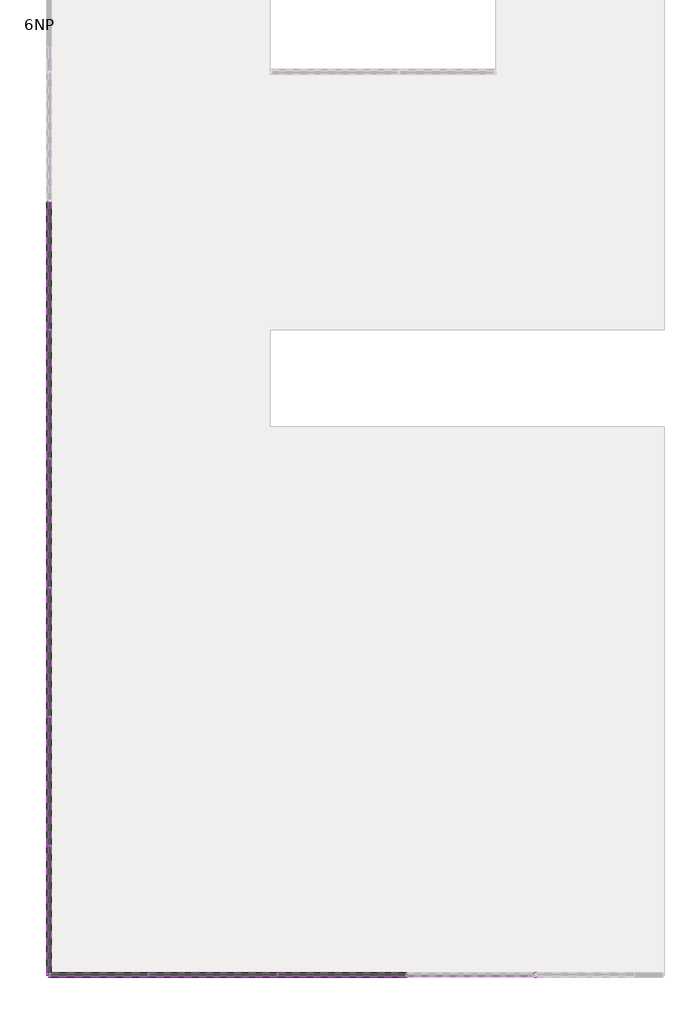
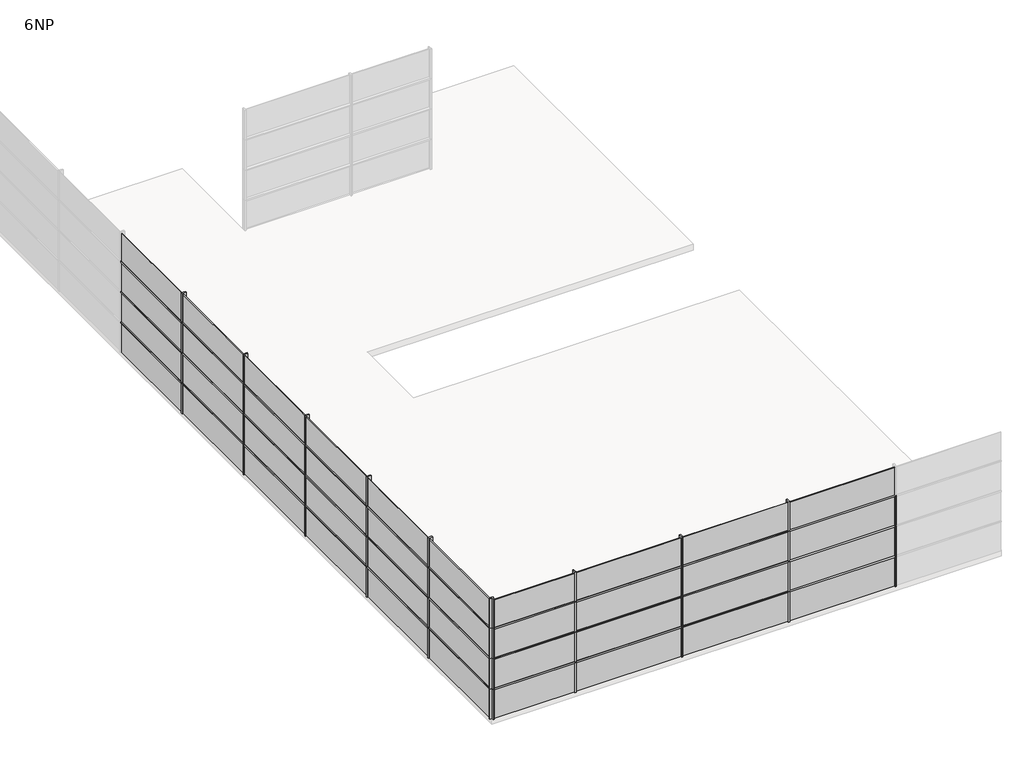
# One storey, part 1 of 3: 70 members, 40 plates.
"""IFC4 building model written with IfcOpenShell, lengths in millimetres."""

from ifc_helpers import new_model, si_unit, origin, place, context, project, spatial, transform, mapped, element, save
from components import rectangular_mullion_50_x_150mm_d99dc9be, rectangular_mullion_50_x_150mm_6588f46c, rectangular_mullion_50_x_150mm_a037c29c, rectangular_mullion_50_x_150mm_c2546fd4, rectangular_mullion_50_x_150mm_568dda71, rectangular_mullion_50_x_150mm_268a5786, rectangular_mullion_50_x_150mm_cd873b1a, system_panel_glazed_8e9402eb, system_panel_glazed_89ac83a7, system_panel_glazed_cf4d7c03, system_panel_glazed_7b3729bb, system_panel_glazed_2dc425e2, system_panel_glazed_f5baf7a3

model = new_model("IFC4")

# Units and contexts
model_context = context("Model", 3, world=origin())
ifc_project = project(units=[si_unit("LENGTHUNIT", "METRE", prefix="MILLI")], contexts=[model_context])

# Site, building, storey
site = spatial("IfcSite", under=ifc_project)
building = spatial("IfcBuilding", under=site)
storey = spatial("IfcBuildingStorey", under=building, Name="6NP", Elevation=24000.0)

# Members
placement = place(None, origin())
rectangular_mullion_50_x_150mm_shape = rectangular_mullion_50_x_150mm_d99dc9be(model_context)
element("IfcMember", 1, ObjectType="Rectangular Mullion : 50 x 150mm", at=placement, inside=storey, context=model_context, shape_type="MappedRepresentation", body=[
    mapped(rectangular_mullion_50_x_150mm_shape, transform((9503.2660975, -23624.0160434, 25200.0), x_axis=(-1.0, 0.0, 0.0), y_axis=(0.0, -1.0, 0.0), z_axis=(0.0, 0.0, 1.0))),
])
element("IfcMember", 2, ObjectType="Rectangular Mullion : 50 x 150mm", at=placement, inside=storey, context=model_context, shape_type="MappedRepresentation", body=[
    mapped(rectangular_mullion_50_x_150mm_shape, transform((9503.2660975, -23624.0160434, 26400.0), x_axis=(-1.0, 0.0, 0.0), y_axis=(0.0, -1.0, 0.0), z_axis=(0.0, 0.0, 1.0))),
])
element("IfcMember", 3, ObjectType="Rectangular Mullion : 50 x 150mm", at=placement, inside=storey, context=model_context, shape_type="MappedRepresentation", body=[
    mapped(rectangular_mullion_50_x_150mm_shape, transform((9503.2660975, -23624.0160434, 27600.0), x_axis=(-1.0, 0.0, 0.0), y_axis=(0.0, -1.0, 0.0), z_axis=(0.0, 0.0, 1.0))),
])
element("IfcMember", 4, ObjectType="Rectangular Mullion : 50 x 150mm", at=placement, inside=storey, context=model_context, shape_type="MappedRepresentation", body=[
    mapped(rectangular_mullion_50_x_150mm_shape, transform((5503.2660975, -23624.0160434, 25200.0), x_axis=(-1.0, 0.0, 0.0), y_axis=(0.0, -1.0, 0.0), z_axis=(0.0, 0.0, 1.0))),
])
element("IfcMember", 5, ObjectType="Rectangular Mullion : 50 x 150mm", at=placement, inside=storey, context=model_context, shape_type="MappedRepresentation", body=[
    mapped(rectangular_mullion_50_x_150mm_shape, transform((5503.2660975, -23624.0160434, 26400.0), x_axis=(-1.0, 0.0, 0.0), y_axis=(0.0, -1.0, 0.0), z_axis=(0.0, 0.0, 1.0))),
])
element("IfcMember", 6, ObjectType="Rectangular Mullion : 50 x 150mm", at=placement, inside=storey, context=model_context, shape_type="MappedRepresentation", body=[
    mapped(rectangular_mullion_50_x_150mm_shape, transform((5503.2660975, -23624.0160434, 27600.0), x_axis=(-1.0, 0.0, 0.0), y_axis=(0.0, -1.0, 0.0), z_axis=(0.0, 0.0, 1.0))),
])
element("IfcMember", 7, ObjectType="Rectangular Mullion : 50 x 150mm", at=placement, inside=storey, context=model_context, shape_type="MappedRepresentation", body=[
    mapped(rectangular_mullion_50_x_150mm_shape, transform((1503.2660975, -23624.0160434, 25200.0), x_axis=(-1.0, 0.0, 0.0), y_axis=(0.0, -1.0, 0.0), z_axis=(0.0, 0.0, 1.0))),
])
element("IfcMember", 8, ObjectType="Rectangular Mullion : 50 x 150mm", at=placement, inside=storey, context=model_context, shape_type="MappedRepresentation", body=[
    mapped(rectangular_mullion_50_x_150mm_shape, transform((1503.2660975, -23624.0160434, 26400.0), x_axis=(-1.0, 0.0, 0.0), y_axis=(0.0, -1.0, 0.0), z_axis=(0.0, 0.0, 1.0))),
])
element("IfcMember", 9, ObjectType="Rectangular Mullion : 50 x 150mm", at=placement, inside=storey, context=model_context, shape_type="MappedRepresentation", body=[
    mapped(rectangular_mullion_50_x_150mm_shape, transform((1503.2660975, -23624.0160434, 27600.0), x_axis=(-1.0, 0.0, 0.0), y_axis=(0.0, -1.0, 0.0), z_axis=(0.0, 0.0, 1.0))),
])
element("IfcMember", 10, ObjectType="Rectangular Mullion : 50 x 150mm", at=placement, inside=storey, context=model_context, shape_type="MappedRepresentation", body=[
    mapped(rectangular_mullion_50_x_150mm_shape, transform((-2496.7339025, -23624.0160434, 25200.0), x_axis=(-1.0, 0.0, 0.0), y_axis=(0.0, -1.0, 0.0), z_axis=(0.0, 0.0, 1.0))),
])
element("IfcMember", 11, ObjectType="Rectangular Mullion : 50 x 150mm", at=placement, inside=storey, context=model_context, shape_type="MappedRepresentation", body=[
    mapped(rectangular_mullion_50_x_150mm_shape, transform((-2496.7339025, -23624.0160434, 26400.0), x_axis=(-1.0, 0.0, 0.0), y_axis=(0.0, -1.0, 0.0), z_axis=(0.0, 0.0, 1.0))),
])
element("IfcMember", 12, ObjectType="Rectangular Mullion : 50 x 150mm", at=placement, inside=storey, context=model_context, shape_type="MappedRepresentation", body=[
    mapped(rectangular_mullion_50_x_150mm_shape, transform((-2496.7339025, -23624.0160434, 27600.0), x_axis=(-1.0, 0.0, 0.0), y_axis=(0.0, -1.0, 0.0), z_axis=(0.0, 0.0, 1.0))),
])
element("IfcMember", 13, ObjectType="Rectangular Mullion : 50 x 150mm", at=placement, inside=storey, context=model_context, shape_type="MappedRepresentation", body=[
    mapped(rectangular_mullion_50_x_150mm_shape, transform((-5587.173406, -19624.0160434, 25200.0), x_axis=(0.0, 1.0, 0.0), y_axis=(-1.0, 0.0, 0.0), z_axis=(0.0, 0.0, 1.0))),
])
element("IfcMember", 14, ObjectType="Rectangular Mullion : 50 x 150mm", at=placement, inside=storey, context=model_context, shape_type="MappedRepresentation", body=[
    mapped(rectangular_mullion_50_x_150mm_shape, transform((-5587.173406, -19624.0160434, 26400.0), x_axis=(0.0, 1.0, 0.0), y_axis=(-1.0, 0.0, 0.0), z_axis=(0.0, 0.0, 1.0))),
])
element("IfcMember", 15, ObjectType="Rectangular Mullion : 50 x 150mm", at=placement, inside=storey, context=model_context, shape_type="MappedRepresentation", body=[
    mapped(rectangular_mullion_50_x_150mm_shape, transform((-5587.173406, -19624.0160434, 27600.0), x_axis=(0.0, 1.0, 0.0), y_axis=(-1.0, 0.0, 0.0), z_axis=(0.0, 0.0, 1.0))),
])
element("IfcMember", 16, ObjectType="Rectangular Mullion : 50 x 150mm", at=placement, inside=storey, context=model_context, shape_type="MappedRepresentation", body=[
    mapped(rectangular_mullion_50_x_150mm_shape, transform((-5587.173406, -15624.0160434, 25200.0), x_axis=(0.0, 1.0, 0.0), y_axis=(-1.0, 0.0, 0.0), z_axis=(0.0, 0.0, 1.0))),
])
element("IfcMember", 17, ObjectType="Rectangular Mullion : 50 x 150mm", at=placement, inside=storey, context=model_context, shape_type="MappedRepresentation", body=[
    mapped(rectangular_mullion_50_x_150mm_shape, transform((-5587.173406, -15624.0160434, 26400.0), x_axis=(0.0, 1.0, 0.0), y_axis=(-1.0, 0.0, 0.0), z_axis=(0.0, 0.0, 1.0))),
])
element("IfcMember", 18, ObjectType="Rectangular Mullion : 50 x 150mm", at=placement, inside=storey, context=model_context, shape_type="MappedRepresentation", body=[
    mapped(rectangular_mullion_50_x_150mm_shape, transform((-5587.173406, -15624.0160434, 27600.0), x_axis=(0.0, 1.0, 0.0), y_axis=(-1.0, 0.0, 0.0), z_axis=(0.0, 0.0, 1.0))),
])
element("IfcMember", 19, ObjectType="Rectangular Mullion : 50 x 150mm", at=placement, inside=storey, context=model_context, shape_type="MappedRepresentation", body=[
    mapped(rectangular_mullion_50_x_150mm_shape, transform((-5587.173406, -11624.0160434, 25200.0), x_axis=(0.0, 1.0, 0.0), y_axis=(-1.0, 0.0, 0.0), z_axis=(0.0, 0.0, 1.0))),
])
element("IfcMember", 20, ObjectType="Rectangular Mullion : 50 x 150mm", at=placement, inside=storey, context=model_context, shape_type="MappedRepresentation", body=[
    mapped(rectangular_mullion_50_x_150mm_shape, transform((-5587.173406, -11624.0160434, 26400.0), x_axis=(0.0, 1.0, 0.0), y_axis=(-1.0, 0.0, 0.0), z_axis=(0.0, 0.0, 1.0))),
])
element("IfcMember", 21, ObjectType="Rectangular Mullion : 50 x 150mm", at=placement, inside=storey, context=model_context, shape_type="MappedRepresentation", body=[
    mapped(rectangular_mullion_50_x_150mm_shape, transform((-5587.173406, -11624.0160434, 27600.0), x_axis=(0.0, 1.0, 0.0), y_axis=(-1.0, 0.0, 0.0), z_axis=(0.0, 0.0, 1.0))),
])
element("IfcMember", 22, ObjectType="Rectangular Mullion : 50 x 150mm", at=placement, inside=storey, context=model_context, shape_type="MappedRepresentation", body=[
    mapped(rectangular_mullion_50_x_150mm_shape, transform((-5587.173406, -7624.0160434, 25200.0), x_axis=(0.0, 1.0, 0.0), y_axis=(-1.0, 0.0, 0.0), z_axis=(0.0, 0.0, 1.0))),
])
element("IfcMember", 23, ObjectType="Rectangular Mullion : 50 x 150mm", at=placement, inside=storey, context=model_context, shape_type="MappedRepresentation", body=[
    mapped(rectangular_mullion_50_x_150mm_shape, transform((-5587.173406, -7624.0160434, 26400.0), x_axis=(0.0, 1.0, 0.0), y_axis=(-1.0, 0.0, 0.0), z_axis=(0.0, 0.0, 1.0))),
])
element("IfcMember", 24, ObjectType="Rectangular Mullion : 50 x 150mm", at=placement, inside=storey, context=model_context, shape_type="MappedRepresentation", body=[
    mapped(rectangular_mullion_50_x_150mm_shape, transform((-5587.173406, -7624.0160434, 27600.0), x_axis=(0.0, 1.0, 0.0), y_axis=(-1.0, 0.0, 0.0), z_axis=(0.0, 0.0, 1.0))),
])
element("IfcMember", 25, ObjectType="Rectangular Mullion : 50 x 150mm", at=placement, inside=storey, context=model_context, shape_type="MappedRepresentation", body=[
    mapped(rectangular_mullion_50_x_150mm_shape, transform((-5587.173406, -3624.0160434, 25200.0), x_axis=(0.0, 1.0, 0.0), y_axis=(-1.0, 0.0, 0.0), z_axis=(0.0, 0.0, 1.0))),
])
element("IfcMember", 26, ObjectType="Rectangular Mullion : 50 x 150mm", at=placement, inside=storey, context=model_context, shape_type="MappedRepresentation", body=[
    mapped(rectangular_mullion_50_x_150mm_shape, transform((-5587.173406, -3624.0160434, 26400.0), x_axis=(0.0, 1.0, 0.0), y_axis=(-1.0, 0.0, 0.0), z_axis=(0.0, 0.0, 1.0))),
])
element("IfcMember", 27, ObjectType="Rectangular Mullion : 50 x 150mm", at=placement, inside=storey, context=model_context, shape_type="MappedRepresentation", body=[
    mapped(rectangular_mullion_50_x_150mm_shape, transform((-5587.173406, -3624.0160434, 27600.0), x_axis=(0.0, 1.0, 0.0), y_axis=(-1.0, 0.0, 0.0), z_axis=(0.0, 0.0, 1.0))),
])
rectangular_mullion_50_x_150mm_2_shape = rectangular_mullion_50_x_150mm_6588f46c(model_context)
element("IfcMember", 28, ObjectType="Rectangular Mullion : 50 x 150mm", at=placement, inside=storey, context=model_context, shape_type="MappedRepresentation", body=[
    mapped(rectangular_mullion_50_x_150mm_2_shape, transform((-5587.173406, -23624.0160434, 25200.0), x_axis=(-1.0, 0.0, 0.0), y_axis=(0.0, -1.0, 0.0), z_axis=(0.0, 0.0, 1.0))),
])
element("IfcMember", 29, ObjectType="Rectangular Mullion : 50 x 150mm", at=placement, inside=storey, context=model_context, shape_type="MappedRepresentation", body=[
    mapped(rectangular_mullion_50_x_150mm_2_shape, transform((-5587.173406, -23624.0160434, 26400.0), x_axis=(-1.0, 0.0, 0.0), y_axis=(0.0, -1.0, 0.0), z_axis=(0.0, 0.0, 1.0))),
])
element("IfcMember", 30, ObjectType="Rectangular Mullion : 50 x 150mm", at=placement, inside=storey, context=model_context, shape_type="MappedRepresentation", body=[
    mapped(rectangular_mullion_50_x_150mm_2_shape, transform((-5587.173406, -23624.0160434, 27600.0), x_axis=(-1.0, 0.0, 0.0), y_axis=(0.0, -1.0, 0.0), z_axis=(0.0, 0.0, 1.0))),
])
rectangular_mullion_50_x_150mm_3_shape = rectangular_mullion_50_x_150mm_a037c29c(model_context)
element("IfcMember", 31, ObjectType="Rectangular Mullion : 50 x 150mm", at=placement, inside=storey, context=model_context, shape_type="MappedRepresentation", body=[
    mapped(rectangular_mullion_50_x_150mm_3_shape, transform((5478.2660975, -23624.0160434, 25200.0), x_axis=(0.0, 0.0, 1.0), y_axis=(0.0, -1.0, 0.0), z_axis=(1.0, 0.0, 0.0))),
])
element("IfcMember", 32, ObjectType="Rectangular Mullion : 50 x 150mm", at=placement, inside=storey, context=model_context, shape_type="MappedRepresentation", body=[
    mapped(rectangular_mullion_50_x_150mm_3_shape, transform((1478.2660975, -23624.0160434, 25200.0), x_axis=(0.0, 0.0, 1.0), y_axis=(0.0, -1.0, 0.0), z_axis=(1.0, 0.0, 0.0))),
])
element("IfcMember", 33, ObjectType="Rectangular Mullion : 50 x 150mm", at=placement, inside=storey, context=model_context, shape_type="MappedRepresentation", body=[
    mapped(rectangular_mullion_50_x_150mm_3_shape, transform((5478.2660975, -23624.0160434, 26400.0), x_axis=(0.0, 0.0, 1.0), y_axis=(0.0, -1.0, 0.0), z_axis=(1.0, 0.0, 0.0))),
])
element("IfcMember", 34, ObjectType="Rectangular Mullion : 50 x 150mm", at=placement, inside=storey, context=model_context, shape_type="MappedRepresentation", body=[
    mapped(rectangular_mullion_50_x_150mm_3_shape, transform((1478.2660975, -23624.0160434, 26400.0), x_axis=(0.0, 0.0, 1.0), y_axis=(0.0, -1.0, 0.0), z_axis=(1.0, 0.0, 0.0))),
])
element("IfcMember", 35, ObjectType="Rectangular Mullion : 50 x 150mm", at=placement, inside=storey, context=model_context, shape_type="MappedRepresentation", body=[
    mapped(rectangular_mullion_50_x_150mm_3_shape, transform((5478.2660975, -23624.0160434, 27600.0), x_axis=(0.0, 0.0, 1.0), y_axis=(0.0, -1.0, 0.0), z_axis=(1.0, 0.0, 0.0))),
])
element("IfcMember", 36, ObjectType="Rectangular Mullion : 50 x 150mm", at=placement, inside=storey, context=model_context, shape_type="MappedRepresentation", body=[
    mapped(rectangular_mullion_50_x_150mm_3_shape, transform((1478.2660975, -23624.0160434, 27600.0), x_axis=(0.0, 0.0, 1.0), y_axis=(0.0, -1.0, 0.0), z_axis=(1.0, 0.0, 0.0))),
])
element("IfcMember", 37, ObjectType="Rectangular Mullion : 50 x 150mm", at=placement, inside=storey, context=model_context, shape_type="MappedRepresentation", body=[
    mapped(rectangular_mullion_50_x_150mm_3_shape, transform((-5587.173406, -19599.0160434, 25200.0), x_axis=(0.0, 0.0, 1.0), y_axis=(-1.0, 0.0, 0.0), z_axis=(0.0, -1.0, 0.0))),
])
element("IfcMember", 38, ObjectType="Rectangular Mullion : 50 x 150mm", at=placement, inside=storey, context=model_context, shape_type="MappedRepresentation", body=[
    mapped(rectangular_mullion_50_x_150mm_3_shape, transform((-5587.173406, -15599.0160434, 25200.0), x_axis=(0.0, 0.0, 1.0), y_axis=(-1.0, 0.0, 0.0), z_axis=(0.0, -1.0, 0.0))),
])
element("IfcMember", 39, ObjectType="Rectangular Mullion : 50 x 150mm", at=placement, inside=storey, context=model_context, shape_type="MappedRepresentation", body=[
    mapped(rectangular_mullion_50_x_150mm_3_shape, transform((-5587.173406, -11599.0160434, 25200.0), x_axis=(0.0, 0.0, 1.0), y_axis=(-1.0, 0.0, 0.0), z_axis=(0.0, -1.0, 0.0))),
])
element("IfcMember", 40, ObjectType="Rectangular Mullion : 50 x 150mm", at=placement, inside=storey, context=model_context, shape_type="MappedRepresentation", body=[
    mapped(rectangular_mullion_50_x_150mm_3_shape, transform((-5587.173406, -7599.0160434, 25200.0), x_axis=(0.0, 0.0, 1.0), y_axis=(-1.0, 0.0, 0.0), z_axis=(0.0, -1.0, 0.0))),
])
element("IfcMember", 41, ObjectType="Rectangular Mullion : 50 x 150mm", at=placement, inside=storey, context=model_context, shape_type="MappedRepresentation", body=[
    mapped(rectangular_mullion_50_x_150mm_3_shape, transform((-5587.173406, -3599.0160434, 25200.0), x_axis=(0.0, 0.0, 1.0), y_axis=(-1.0, 0.0, 0.0), z_axis=(0.0, -1.0, 0.0))),
])
element("IfcMember", 42, ObjectType="Rectangular Mullion : 50 x 150mm", at=placement, inside=storey, context=model_context, shape_type="MappedRepresentation", body=[
    mapped(rectangular_mullion_50_x_150mm_3_shape, transform((-5587.173406, -19599.0160434, 26400.0), x_axis=(0.0, 0.0, 1.0), y_axis=(-1.0, 0.0, 0.0), z_axis=(0.0, -1.0, 0.0))),
])
element("IfcMember", 43, ObjectType="Rectangular Mullion : 50 x 150mm", at=placement, inside=storey, context=model_context, shape_type="MappedRepresentation", body=[
    mapped(rectangular_mullion_50_x_150mm_3_shape, transform((-5587.173406, -15599.0160434, 26400.0), x_axis=(0.0, 0.0, 1.0), y_axis=(-1.0, 0.0, 0.0), z_axis=(0.0, -1.0, 0.0))),
])
element("IfcMember", 44, ObjectType="Rectangular Mullion : 50 x 150mm", at=placement, inside=storey, context=model_context, shape_type="MappedRepresentation", body=[
    mapped(rectangular_mullion_50_x_150mm_3_shape, transform((-5587.173406, -11599.0160434, 26400.0), x_axis=(0.0, 0.0, 1.0), y_axis=(-1.0, 0.0, 0.0), z_axis=(0.0, -1.0, 0.0))),
])
element("IfcMember", 45, ObjectType="Rectangular Mullion : 50 x 150mm", at=placement, inside=storey, context=model_context, shape_type="MappedRepresentation", body=[
    mapped(rectangular_mullion_50_x_150mm_3_shape, transform((-5587.173406, -7599.0160434, 26400.0), x_axis=(0.0, 0.0, 1.0), y_axis=(-1.0, 0.0, 0.0), z_axis=(0.0, -1.0, 0.0))),
])
element("IfcMember", 46, ObjectType="Rectangular Mullion : 50 x 150mm", at=placement, inside=storey, context=model_context, shape_type="MappedRepresentation", body=[
    mapped(rectangular_mullion_50_x_150mm_3_shape, transform((-5587.173406, -3599.0160434, 26400.0), x_axis=(0.0, 0.0, 1.0), y_axis=(-1.0, 0.0, 0.0), z_axis=(0.0, -1.0, 0.0))),
])
element("IfcMember", 47, ObjectType="Rectangular Mullion : 50 x 150mm", at=placement, inside=storey, context=model_context, shape_type="MappedRepresentation", body=[
    mapped(rectangular_mullion_50_x_150mm_3_shape, transform((-5587.173406, -19599.0160434, 27600.0), x_axis=(0.0, 0.0, 1.0), y_axis=(-1.0, 0.0, 0.0), z_axis=(0.0, -1.0, 0.0))),
])
element("IfcMember", 48, ObjectType="Rectangular Mullion : 50 x 150mm", at=placement, inside=storey, context=model_context, shape_type="MappedRepresentation", body=[
    mapped(rectangular_mullion_50_x_150mm_3_shape, transform((-5587.173406, -15599.0160434, 27600.0), x_axis=(0.0, 0.0, 1.0), y_axis=(-1.0, 0.0, 0.0), z_axis=(0.0, -1.0, 0.0))),
])
element("IfcMember", 49, ObjectType="Rectangular Mullion : 50 x 150mm", at=placement, inside=storey, context=model_context, shape_type="MappedRepresentation", body=[
    mapped(rectangular_mullion_50_x_150mm_3_shape, transform((-5587.173406, -11599.0160434, 27600.0), x_axis=(0.0, 0.0, 1.0), y_axis=(-1.0, 0.0, 0.0), z_axis=(0.0, -1.0, 0.0))),
])
element("IfcMember", 50, ObjectType="Rectangular Mullion : 50 x 150mm", at=placement, inside=storey, context=model_context, shape_type="MappedRepresentation", body=[
    mapped(rectangular_mullion_50_x_150mm_3_shape, transform((-5587.173406, -7599.0160434, 27600.0), x_axis=(0.0, 0.0, 1.0), y_axis=(-1.0, 0.0, 0.0), z_axis=(0.0, -1.0, 0.0))),
])
element("IfcMember", 51, ObjectType="Rectangular Mullion : 50 x 150mm", at=placement, inside=storey, context=model_context, shape_type="MappedRepresentation", body=[
    mapped(rectangular_mullion_50_x_150mm_3_shape, transform((-5587.173406, -3599.0160434, 27600.0), x_axis=(0.0, 0.0, 1.0), y_axis=(-1.0, 0.0, 0.0), z_axis=(0.0, -1.0, 0.0))),
])
rectangular_mullion_50_x_150mm_4_shape = rectangular_mullion_50_x_150mm_c2546fd4(model_context)
element("IfcMember", 52, ObjectType="Rectangular Mullion : 50 x 150mm", at=placement, inside=storey, context=model_context, shape_type="MappedRepresentation", body=[
    mapped(rectangular_mullion_50_x_150mm_4_shape, transform((-5587.173406, -23574.0160434, 25200.0), x_axis=(0.0, 0.0, 1.0), y_axis=(-1.0, 0.0, 0.0), z_axis=(0.0, -1.0, 0.0))),
])
element("IfcMember", 53, ObjectType="Rectangular Mullion : 50 x 150mm", at=placement, inside=storey, context=model_context, shape_type="MappedRepresentation", body=[
    mapped(rectangular_mullion_50_x_150mm_4_shape, transform((-5587.173406, -23574.0160434, 26400.0), x_axis=(0.0, 0.0, 1.0), y_axis=(-1.0, 0.0, 0.0), z_axis=(0.0, -1.0, 0.0))),
])
element("IfcMember", 54, ObjectType="Rectangular Mullion : 50 x 150mm", at=placement, inside=storey, context=model_context, shape_type="MappedRepresentation", body=[
    mapped(rectangular_mullion_50_x_150mm_4_shape, transform((-5587.173406, -23574.0160434, 27600.0), x_axis=(0.0, 0.0, 1.0), y_axis=(-1.0, 0.0, 0.0), z_axis=(0.0, -1.0, 0.0))),
])
rectangular_mullion_50_x_150mm_5_shape = rectangular_mullion_50_x_150mm_568dda71(model_context)
element("IfcMember", 55, ObjectType="Rectangular Mullion : 50 x 150mm", at=placement, inside=storey, context=model_context, shape_type="MappedRepresentation", body=[
    mapped(rectangular_mullion_50_x_150mm_5_shape, transform((5503.2660975, -23624.0160434, 28773.2453384), x_axis=(-1.0, 0.0, 0.0), y_axis=(0.0, -1.0, 0.0), z_axis=(0.0, 0.0, 1.0))),
])
element("IfcMember", 56, ObjectType="Rectangular Mullion : 50 x 150mm", at=placement, inside=storey, context=model_context, shape_type="MappedRepresentation", body=[
    mapped(rectangular_mullion_50_x_150mm_5_shape, transform((1503.2660975, -23624.0160434, 28773.2453384), x_axis=(-1.0, 0.0, 0.0), y_axis=(0.0, -1.0, 0.0), z_axis=(0.0, 0.0, 1.0))),
])
element("IfcMember", 57, ObjectType="Rectangular Mullion : 50 x 150mm", at=placement, inside=storey, context=model_context, shape_type="MappedRepresentation", body=[
    mapped(rectangular_mullion_50_x_150mm_5_shape, transform((-2496.7339025, -23624.0160434, 28773.2453384), x_axis=(-1.0, 0.0, 0.0), y_axis=(0.0, -1.0, 0.0), z_axis=(0.0, 0.0, 1.0))),
])
element("IfcMember", 58, ObjectType="Rectangular Mullion : 50 x 150mm", at=placement, inside=storey, context=model_context, shape_type="MappedRepresentation", body=[
    mapped(rectangular_mullion_50_x_150mm_5_shape, transform((-5587.173406, -19624.0160434, 28773.2453384), x_axis=(0.0, 1.0, 0.0), y_axis=(-1.0, 0.0, 0.0), z_axis=(0.0, 0.0, 1.0))),
])
element("IfcMember", 59, ObjectType="Rectangular Mullion : 50 x 150mm", at=placement, inside=storey, context=model_context, shape_type="MappedRepresentation", body=[
    mapped(rectangular_mullion_50_x_150mm_5_shape, transform((-5587.173406, -15624.0160434, 28773.2453384), x_axis=(0.0, 1.0, 0.0), y_axis=(-1.0, 0.0, 0.0), z_axis=(0.0, 0.0, 1.0))),
])
element("IfcMember", 60, ObjectType="Rectangular Mullion : 50 x 150mm", at=placement, inside=storey, context=model_context, shape_type="MappedRepresentation", body=[
    mapped(rectangular_mullion_50_x_150mm_5_shape, transform((-5587.173406, -11624.0160434, 28773.2453384), x_axis=(0.0, 1.0, 0.0), y_axis=(-1.0, 0.0, 0.0), z_axis=(0.0, 0.0, 1.0))),
])
element("IfcMember", 61, ObjectType="Rectangular Mullion : 50 x 150mm", at=placement, inside=storey, context=model_context, shape_type="MappedRepresentation", body=[
    mapped(rectangular_mullion_50_x_150mm_5_shape, transform((-5587.173406, -7624.0160434, 28773.2453384), x_axis=(0.0, 1.0, 0.0), y_axis=(-1.0, 0.0, 0.0), z_axis=(0.0, 0.0, 1.0))),
])
element("IfcMember", 62, ObjectType="Rectangular Mullion : 50 x 150mm", at=placement, inside=storey, context=model_context, shape_type="MappedRepresentation", body=[
    mapped(rectangular_mullion_50_x_150mm_5_shape, transform((-5587.173406, -3624.0160434, 28773.2453384), x_axis=(0.0, 1.0, 0.0), y_axis=(-1.0, 0.0, 0.0), z_axis=(0.0, 0.0, 1.0))),
])
rectangular_mullion_50_x_150mm_6_shape = rectangular_mullion_50_x_150mm_268a5786(model_context)
element("IfcMember", 63, ObjectType="Rectangular Mullion : 50 x 150mm", at=placement, inside=storey, context=model_context, shape_type="MappedRepresentation", body=[
    mapped(rectangular_mullion_50_x_150mm_6_shape, transform((-5587.173406, -23624.0160434, 28773.2453384), x_axis=(-1.0, 0.0, 0.0), y_axis=(0.0, -1.0, 0.0), z_axis=(0.0, 0.0, 1.0))),
])
element("IfcMember", 64, ObjectType="Rectangular Mullion : 50 x 150mm", at=placement, inside=storey, context=model_context, shape_type="MappedRepresentation", body=[
    mapped(rectangular_mullion_50_x_150mm_6_shape, transform((-5587.173406, -23624.0160434, 27600.0), x_axis=(0.0, -1.0, 0.0), y_axis=(-1.0, 0.0, 0.0), z_axis=(0.0, 0.0, -1.0))),
])
element("IfcMember", 65, ObjectType="Rectangular Mullion : 50 x 150mm", at=placement, inside=storey, context=model_context, shape_type="MappedRepresentation", body=[
    mapped(rectangular_mullion_50_x_150mm_2_shape, transform((-5587.173406, -23624.0160434, 24000.0), x_axis=(0.0, -1.0, 0.0), y_axis=(-1.0, 0.0, 0.0), z_axis=(0.0, 0.0, -1.0))),
])
element("IfcMember", 66, ObjectType="Rectangular Mullion : 50 x 150mm", at=placement, inside=storey, context=model_context, shape_type="MappedRepresentation", body=[
    mapped(rectangular_mullion_50_x_150mm_2_shape, transform((-5587.173406, -23624.0160434, 25200.0), x_axis=(0.0, -1.0, 0.0), y_axis=(-1.0, 0.0, 0.0), z_axis=(0.0, 0.0, -1.0))),
])
element("IfcMember", 67, ObjectType="Rectangular Mullion : 50 x 150mm", at=placement, inside=storey, context=model_context, shape_type="MappedRepresentation", body=[
    mapped(rectangular_mullion_50_x_150mm_2_shape, transform((-5587.173406, -23624.0160434, 26400.0), x_axis=(0.0, -1.0, 0.0), y_axis=(-1.0, 0.0, 0.0), z_axis=(0.0, 0.0, -1.0))),
])
rectangular_mullion_50_x_150mm_7_shape = rectangular_mullion_50_x_150mm_cd873b1a(model_context)
element("IfcMember", 68, ObjectType="Rectangular Mullion : 50 x 150mm", at=placement, inside=storey, context=model_context, shape_type="MappedRepresentation", body=[
    mapped(rectangular_mullion_50_x_150mm_7_shape, transform((-2521.7339025, -23624.0160434, 25200.0), x_axis=(0.0, 0.0, 1.0), y_axis=(0.0, -1.0, 0.0), z_axis=(1.0, 0.0, 0.0))),
])
element("IfcMember", 69, ObjectType="Rectangular Mullion : 50 x 150mm", at=placement, inside=storey, context=model_context, shape_type="MappedRepresentation", body=[
    mapped(rectangular_mullion_50_x_150mm_7_shape, transform((-2521.7339025, -23624.0160434, 26400.0), x_axis=(0.0, 0.0, 1.0), y_axis=(0.0, -1.0, 0.0), z_axis=(1.0, 0.0, 0.0))),
])
element("IfcMember", 70, ObjectType="Rectangular Mullion : 50 x 150mm", at=placement, inside=storey, context=model_context, shape_type="MappedRepresentation", body=[
    mapped(rectangular_mullion_50_x_150mm_7_shape, transform((-2521.7339025, -23624.0160434, 27600.0), x_axis=(0.0, 0.0, 1.0), y_axis=(0.0, -1.0, 0.0), z_axis=(1.0, 0.0, 0.0))),
])

# Plates
system_panel_glazed_shape = system_panel_glazed_8e9402eb(model_context)
element("IfcPlate", 71, ObjectType="System Panel : Glazed", at=placement, inside=storey, context=model_context, shape_type="MappedRepresentation", body=[
    mapped(system_panel_glazed_shape, transform((-5587.173406, -21611.5160434, 24025.0), x_axis=(0.0, 1.0, 0.0), y_axis=(-1.0, 0.0, 0.0), z_axis=(0.0, 0.0, 1.0))),
])
element("IfcPlate", 72, ObjectType="System Panel : Glazed", at=placement, inside=storey, context=model_context, shape_type="MappedRepresentation", body=[
    mapped(system_panel_glazed_shape, transform((-5587.173406, -21611.5160434, 25225.0), x_axis=(0.0, 1.0, 0.0), y_axis=(-1.0, 0.0, 0.0), z_axis=(0.0, 0.0, 1.0))),
])
element("IfcPlate", 73, ObjectType="System Panel : Glazed", at=placement, inside=storey, context=model_context, shape_type="MappedRepresentation", body=[
    mapped(system_panel_glazed_shape, transform((-5587.173406, -21611.5160434, 26425.0), x_axis=(0.0, 1.0, 0.0), y_axis=(-1.0, 0.0, 0.0), z_axis=(0.0, 0.0, 1.0))),
])
system_panel_glazed_2_shape = system_panel_glazed_89ac83a7(model_context)
element("IfcPlate", 74, ObjectType="System Panel : Glazed", at=placement, inside=storey, context=model_context, shape_type="MappedRepresentation", body=[
    mapped(system_panel_glazed_2_shape, transform((-5587.173406, -17624.0160434, 24025.0), x_axis=(0.0, 1.0, 0.0), y_axis=(-1.0, 0.0, 0.0), z_axis=(0.0, 0.0, 1.0))),
])
element("IfcPlate", 75, ObjectType="System Panel : Glazed", at=placement, inside=storey, context=model_context, shape_type="MappedRepresentation", body=[
    mapped(system_panel_glazed_2_shape, transform((-5587.173406, -13624.0160434, 24025.0), x_axis=(0.0, 1.0, 0.0), y_axis=(-1.0, 0.0, 0.0), z_axis=(0.0, 0.0, 1.0))),
])
element("IfcPlate", 76, ObjectType="System Panel : Glazed", at=placement, inside=storey, context=model_context, shape_type="MappedRepresentation", body=[
    mapped(system_panel_glazed_2_shape, transform((-5587.173406, -9624.0160434, 24025.0), x_axis=(0.0, 1.0, 0.0), y_axis=(-1.0, 0.0, 0.0), z_axis=(0.0, 0.0, 1.0))),
])
element("IfcPlate", 77, ObjectType="System Panel : Glazed", at=placement, inside=storey, context=model_context, shape_type="MappedRepresentation", body=[
    mapped(system_panel_glazed_2_shape, transform((-5587.173406, -5624.0160434, 24025.0), x_axis=(0.0, 1.0, 0.0), y_axis=(-1.0, 0.0, 0.0), z_axis=(0.0, 0.0, 1.0))),
])
element("IfcPlate", 78, ObjectType="System Panel : Glazed", at=placement, inside=storey, context=model_context, shape_type="MappedRepresentation", body=[
    mapped(system_panel_glazed_2_shape, transform((-5587.173406, -1624.0160434, 24025.0), x_axis=(0.0, 1.0, 0.0), y_axis=(-1.0, 0.0, 0.0), z_axis=(0.0, 0.0, 1.0))),
])
element("IfcPlate", 79, ObjectType="System Panel : Glazed", at=placement, inside=storey, context=model_context, shape_type="MappedRepresentation", body=[
    mapped(system_panel_glazed_2_shape, transform((-5587.173406, -17624.0160434, 25225.0), x_axis=(0.0, 1.0, 0.0), y_axis=(-1.0, 0.0, 0.0), z_axis=(0.0, 0.0, 1.0))),
])
element("IfcPlate", 80, ObjectType="System Panel : Glazed", at=placement, inside=storey, context=model_context, shape_type="MappedRepresentation", body=[
    mapped(system_panel_glazed_2_shape, transform((-5587.173406, -13624.0160434, 25225.0), x_axis=(0.0, 1.0, 0.0), y_axis=(-1.0, 0.0, 0.0), z_axis=(0.0, 0.0, 1.0))),
])
element("IfcPlate", 81, ObjectType="System Panel : Glazed", at=placement, inside=storey, context=model_context, shape_type="MappedRepresentation", body=[
    mapped(system_panel_glazed_2_shape, transform((-5587.173406, -9624.0160434, 25225.0), x_axis=(0.0, 1.0, 0.0), y_axis=(-1.0, 0.0, 0.0), z_axis=(0.0, 0.0, 1.0))),
])
element("IfcPlate", 82, ObjectType="System Panel : Glazed", at=placement, inside=storey, context=model_context, shape_type="MappedRepresentation", body=[
    mapped(system_panel_glazed_2_shape, transform((-5587.173406, -5624.0160434, 25225.0), x_axis=(0.0, 1.0, 0.0), y_axis=(-1.0, 0.0, 0.0), z_axis=(0.0, 0.0, 1.0))),
])
element("IfcPlate", 83, ObjectType="System Panel : Glazed", at=placement, inside=storey, context=model_context, shape_type="MappedRepresentation", body=[
    mapped(system_panel_glazed_2_shape, transform((-5587.173406, -1624.0160434, 25225.0), x_axis=(0.0, 1.0, 0.0), y_axis=(-1.0, 0.0, 0.0), z_axis=(0.0, 0.0, 1.0))),
])
element("IfcPlate", 84, ObjectType="System Panel : Glazed", at=placement, inside=storey, context=model_context, shape_type="MappedRepresentation", body=[
    mapped(system_panel_glazed_2_shape, transform((-5587.173406, -17624.0160434, 26425.0), x_axis=(0.0, 1.0, 0.0), y_axis=(-1.0, 0.0, 0.0), z_axis=(0.0, 0.0, 1.0))),
])
element("IfcPlate", 85, ObjectType="System Panel : Glazed", at=placement, inside=storey, context=model_context, shape_type="MappedRepresentation", body=[
    mapped(system_panel_glazed_2_shape, transform((-5587.173406, -13624.0160434, 26425.0), x_axis=(0.0, 1.0, 0.0), y_axis=(-1.0, 0.0, 0.0), z_axis=(0.0, 0.0, 1.0))),
])
element("IfcPlate", 86, ObjectType="System Panel : Glazed", at=placement, inside=storey, context=model_context, shape_type="MappedRepresentation", body=[
    mapped(system_panel_glazed_2_shape, transform((-5587.173406, -9624.0160434, 26425.0), x_axis=(0.0, 1.0, 0.0), y_axis=(-1.0, 0.0, 0.0), z_axis=(0.0, 0.0, 1.0))),
])
element("IfcPlate", 87, ObjectType="System Panel : Glazed", at=placement, inside=storey, context=model_context, shape_type="MappedRepresentation", body=[
    mapped(system_panel_glazed_2_shape, transform((-5587.173406, -5624.0160434, 26425.0), x_axis=(0.0, 1.0, 0.0), y_axis=(-1.0, 0.0, 0.0), z_axis=(0.0, 0.0, 1.0))),
])
element("IfcPlate", 88, ObjectType="System Panel : Glazed", at=placement, inside=storey, context=model_context, shape_type="MappedRepresentation", body=[
    mapped(system_panel_glazed_2_shape, transform((-5587.173406, -1624.0160434, 26425.0), x_axis=(0.0, 1.0, 0.0), y_axis=(-1.0, 0.0, 0.0), z_axis=(0.0, 0.0, 1.0))),
])
element("IfcPlate", 89, ObjectType="System Panel : Glazed", at=placement, inside=storey, context=model_context, shape_type="MappedRepresentation", body=[
    mapped(system_panel_glazed_2_shape, transform((7503.2660975, -23624.0160434, 24025.0), x_axis=(-1.0, 0.0, 0.0), y_axis=(0.0, -1.0, 0.0), z_axis=(0.0, 0.0, 1.0))),
])
element("IfcPlate", 90, ObjectType="System Panel : Glazed", at=placement, inside=storey, context=model_context, shape_type="MappedRepresentation", body=[
    mapped(system_panel_glazed_2_shape, transform((3503.2660975, -23624.0160434, 24025.0), x_axis=(-1.0, 0.0, 0.0), y_axis=(0.0, -1.0, 0.0), z_axis=(0.0, 0.0, 1.0))),
])
element("IfcPlate", 91, ObjectType="System Panel : Glazed", at=placement, inside=storey, context=model_context, shape_type="MappedRepresentation", body=[
    mapped(system_panel_glazed_2_shape, transform((-496.7339025, -23624.0160434, 24025.0), x_axis=(-1.0, 0.0, 0.0), y_axis=(0.0, -1.0, 0.0), z_axis=(0.0, 0.0, 1.0))),
])
element("IfcPlate", 92, ObjectType="System Panel : Glazed", at=placement, inside=storey, context=model_context, shape_type="MappedRepresentation", body=[
    mapped(system_panel_glazed_2_shape, transform((7503.2660975, -23624.0160434, 25225.0), x_axis=(-1.0, 0.0, 0.0), y_axis=(0.0, -1.0, 0.0), z_axis=(0.0, 0.0, 1.0))),
])
element("IfcPlate", 93, ObjectType="System Panel : Glazed", at=placement, inside=storey, context=model_context, shape_type="MappedRepresentation", body=[
    mapped(system_panel_glazed_2_shape, transform((3503.2660975, -23624.0160434, 25225.0), x_axis=(-1.0, 0.0, 0.0), y_axis=(0.0, -1.0, 0.0), z_axis=(0.0, 0.0, 1.0))),
])
element("IfcPlate", 94, ObjectType="System Panel : Glazed", at=placement, inside=storey, context=model_context, shape_type="MappedRepresentation", body=[
    mapped(system_panel_glazed_2_shape, transform((-496.7339025, -23624.0160434, 25225.0), x_axis=(-1.0, 0.0, 0.0), y_axis=(0.0, -1.0, 0.0), z_axis=(0.0, 0.0, 1.0))),
])
element("IfcPlate", 95, ObjectType="System Panel : Glazed", at=placement, inside=storey, context=model_context, shape_type="MappedRepresentation", body=[
    mapped(system_panel_glazed_2_shape, transform((7503.2660975, -23624.0160434, 26425.0), x_axis=(-1.0, 0.0, 0.0), y_axis=(0.0, -1.0, 0.0), z_axis=(0.0, 0.0, 1.0))),
])
element("IfcPlate", 96, ObjectType="System Panel : Glazed", at=placement, inside=storey, context=model_context, shape_type="MappedRepresentation", body=[
    mapped(system_panel_glazed_2_shape, transform((3503.2660975, -23624.0160434, 26425.0), x_axis=(-1.0, 0.0, 0.0), y_axis=(0.0, -1.0, 0.0), z_axis=(0.0, 0.0, 1.0))),
])
element("IfcPlate", 97, ObjectType="System Panel : Glazed", at=placement, inside=storey, context=model_context, shape_type="MappedRepresentation", body=[
    mapped(system_panel_glazed_2_shape, transform((-496.7339025, -23624.0160434, 26425.0), x_axis=(-1.0, 0.0, 0.0), y_axis=(0.0, -1.0, 0.0), z_axis=(0.0, 0.0, 1.0))),
])
system_panel_glazed_3_shape = system_panel_glazed_cf4d7c03(model_context)
element("IfcPlate", 98, ObjectType="System Panel : Glazed", at=placement, inside=storey, context=model_context, shape_type="MappedRepresentation", body=[
    mapped(system_panel_glazed_3_shape, transform((-5587.173406, -21611.5160434, 27625.0), x_axis=(0.0, 1.0, 0.0), y_axis=(-1.0, 0.0, 0.0), z_axis=(0.0, 0.0, 1.0))),
])
system_panel_glazed_4_shape = system_panel_glazed_7b3729bb(model_context)
element("IfcPlate", 99, ObjectType="System Panel : Glazed", at=placement, inside=storey, context=model_context, shape_type="MappedRepresentation", body=[
    mapped(system_panel_glazed_4_shape, transform((-5587.173406, -17624.0160434, 27625.0), x_axis=(0.0, 1.0, 0.0), y_axis=(-1.0, 0.0, 0.0), z_axis=(0.0, 0.0, 1.0))),
])
element("IfcPlate", 100, ObjectType="System Panel : Glazed", at=placement, inside=storey, context=model_context, shape_type="MappedRepresentation", body=[
    mapped(system_panel_glazed_4_shape, transform((-5587.173406, -13624.0160434, 27625.0), x_axis=(0.0, 1.0, 0.0), y_axis=(-1.0, 0.0, 0.0), z_axis=(0.0, 0.0, 1.0))),
])
element("IfcPlate", 101, ObjectType="System Panel : Glazed", at=placement, inside=storey, context=model_context, shape_type="MappedRepresentation", body=[
    mapped(system_panel_glazed_4_shape, transform((-5587.173406, -9624.0160434, 27625.0), x_axis=(0.0, 1.0, 0.0), y_axis=(-1.0, 0.0, 0.0), z_axis=(0.0, 0.0, 1.0))),
])
element("IfcPlate", 102, ObjectType="System Panel : Glazed", at=placement, inside=storey, context=model_context, shape_type="MappedRepresentation", body=[
    mapped(system_panel_glazed_4_shape, transform((-5587.173406, -5624.0160434, 27625.0), x_axis=(0.0, 1.0, 0.0), y_axis=(-1.0, 0.0, 0.0), z_axis=(0.0, 0.0, 1.0))),
])
element("IfcPlate", 103, ObjectType="System Panel : Glazed", at=placement, inside=storey, context=model_context, shape_type="MappedRepresentation", body=[
    mapped(system_panel_glazed_4_shape, transform((-5587.173406, -1624.0160434, 27625.0), x_axis=(0.0, 1.0, 0.0), y_axis=(-1.0, 0.0, 0.0), z_axis=(0.0, 0.0, 1.0))),
])
element("IfcPlate", 104, ObjectType="System Panel : Glazed", at=placement, inside=storey, context=model_context, shape_type="MappedRepresentation", body=[
    mapped(system_panel_glazed_4_shape, transform((7503.2660975, -23624.0160434, 27625.0), x_axis=(-1.0, 0.0, 0.0), y_axis=(0.0, -1.0, 0.0), z_axis=(0.0, 0.0, 1.0))),
])
element("IfcPlate", 105, ObjectType="System Panel : Glazed", at=placement, inside=storey, context=model_context, shape_type="MappedRepresentation", body=[
    mapped(system_panel_glazed_4_shape, transform((3503.2660975, -23624.0160434, 27625.0), x_axis=(-1.0, 0.0, 0.0), y_axis=(0.0, -1.0, 0.0), z_axis=(0.0, 0.0, 1.0))),
])
element("IfcPlate", 106, ObjectType="System Panel : Glazed", at=placement, inside=storey, context=model_context, shape_type="MappedRepresentation", body=[
    mapped(system_panel_glazed_4_shape, transform((-496.7339025, -23624.0160434, 27625.0), x_axis=(-1.0, 0.0, 0.0), y_axis=(0.0, -1.0, 0.0), z_axis=(0.0, 0.0, 1.0))),
])
system_panel_glazed_5_shape = system_panel_glazed_2dc425e2(model_context)
element("IfcPlate", 107, ObjectType="System Panel : Glazed", at=placement, inside=storey, context=model_context, shape_type="MappedRepresentation", body=[
    mapped(system_panel_glazed_5_shape, transform((-4029.4536543, -23624.0160434, 24025.0), x_axis=(-1.0, 0.0, 0.0), y_axis=(0.0, -1.0, 0.0), z_axis=(0.0, 0.0, 1.0))),
])
element("IfcPlate", 108, ObjectType="System Panel : Glazed", at=placement, inside=storey, context=model_context, shape_type="MappedRepresentation", body=[
    mapped(system_panel_glazed_5_shape, transform((-4029.4536543, -23624.0160434, 25225.0), x_axis=(-1.0, 0.0, 0.0), y_axis=(0.0, -1.0, 0.0), z_axis=(0.0, 0.0, 1.0))),
])
element("IfcPlate", 109, ObjectType="System Panel : Glazed", at=placement, inside=storey, context=model_context, shape_type="MappedRepresentation", body=[
    mapped(system_panel_glazed_5_shape, transform((-4029.4536543, -23624.0160434, 26425.0), x_axis=(-1.0, 0.0, 0.0), y_axis=(0.0, -1.0, 0.0), z_axis=(0.0, 0.0, 1.0))),
])
system_panel_glazed_6_shape = system_panel_glazed_f5baf7a3(model_context)
element("IfcPlate", 110, ObjectType="System Panel : Glazed", at=placement, inside=storey, context=model_context, shape_type="MappedRepresentation", body=[
    mapped(system_panel_glazed_6_shape, transform((-4029.4536543, -23624.0160434, 27625.0), x_axis=(-1.0, 0.0, 0.0), y_axis=(0.0, -1.0, 0.0), z_axis=(0.0, 0.0, 1.0))),
])

save(model, "model.ifc")
